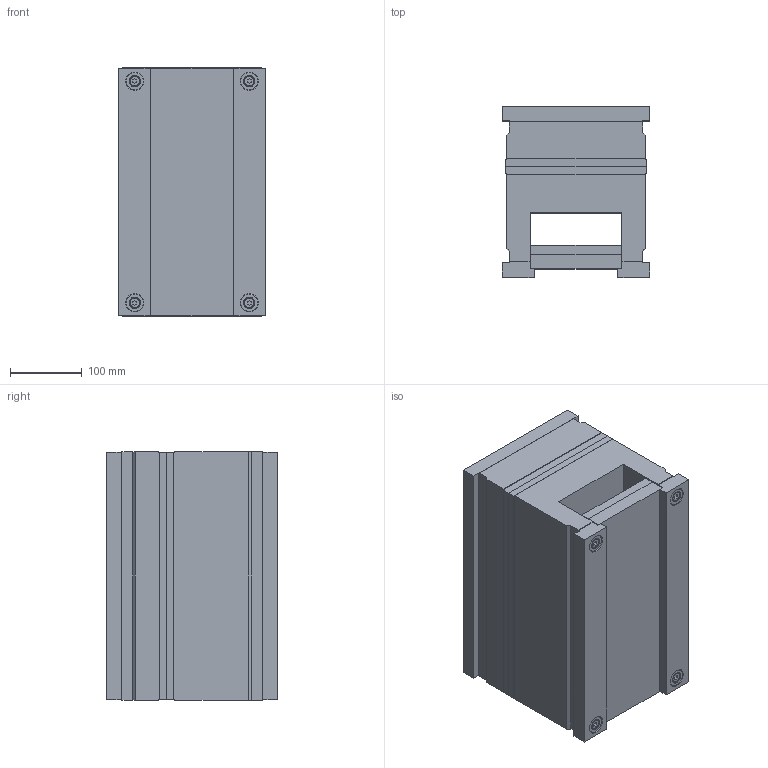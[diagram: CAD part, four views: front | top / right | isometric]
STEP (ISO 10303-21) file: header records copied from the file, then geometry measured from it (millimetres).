
FILE_DESCRIPTION (( 'STEP AP214' ), '1' );
FILE_NAME ('1964.STEP', '2002-07-10T07:52:23', ( 'Simcha Kilim' ), ( 'K. Plastics Engineering' ), 'SwSTEP 2.0', 'SolidWorks 2002025', '' );
FILE_SCHEMA (( 'AUTOMOTIVE_DESIGN' ));
Length unit declared in the file: millimetre
Products named in the file (12): 1964; ALMO (ejector half)_1964; ALMO (ejector return plate)_1964; ALMO (ejector plate)_1964; ALMO (hot half)_1964; ALMO (guide pin)_Ø15; ALMO (guide bush)_Ø15; ALMO (guide bush)_Ø14; ALMO (key plate)_Ø14; ALMO (screw)_M8x115; ALMO (guide pin)_Ø14; ALMO (screw)_M8x60
Assembly tree (28 placements, depth 2):
  1964
    ALMO (guide pin)_Ø14  x3
    ALMO (key plate)_Ø14  x8
    ALMO (guide pin)_Ø15
    ALMO (ejector half)_1964
    ALMO (guide bush)_Ø14  x3
    ALMO (screw)_M8x60  x4
    ALMO (ejector return plate)_1964
    ALMO (guide bush)_Ø15
    ALMO (screw)_M8x115  x4
    ALMO (ejector plate)_1964
    ALMO (hot half)_1964
Bounding box: 206 x 239 x 348 mm (x, y, z)
Volume: 13581709.5 mm3; surface area: 932338.9 mm2
Topology: 28 solids, 28 shells, 706 faces, 1496 edges, 924 vertices
Faces by surface type: cylinder 260, plane 254, cone 192
Entity records: 10477 total; most frequent: DIRECTION 1914, CARTESIAN_POINT 1683, ORIENTED_EDGE 1584, EDGE_CURVE 792, AXIS2_PLACEMENT_3D 729, VERTEX_POINT 498, LINE 456, VECTOR 456
